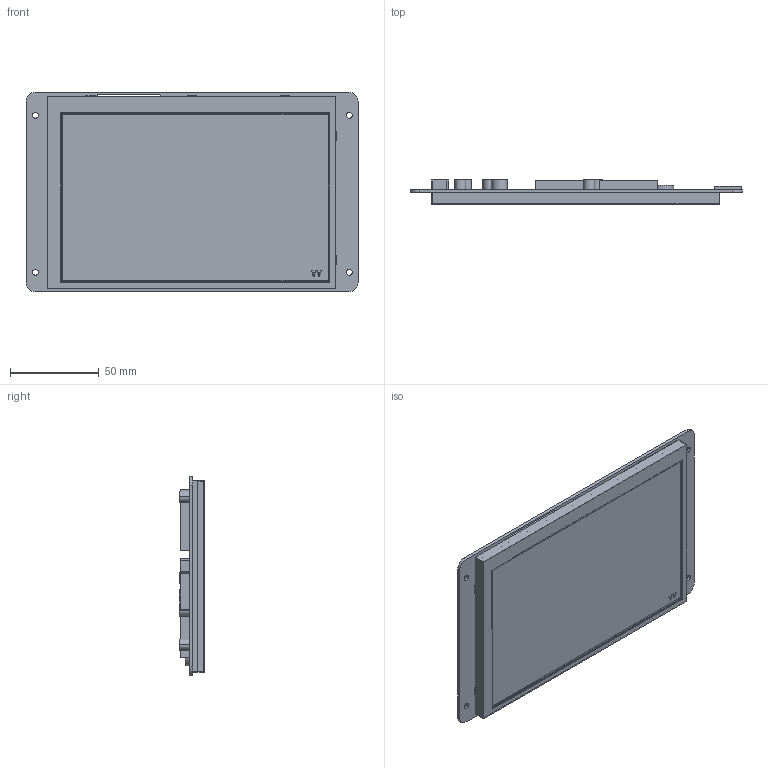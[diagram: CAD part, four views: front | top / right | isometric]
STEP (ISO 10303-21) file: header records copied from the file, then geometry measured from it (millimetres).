
FILE_DESCRIPTION((''),'2;1');
FILE_NAME('DMG12800K070-03WTC_ASM','2022-02-22T',('Administrator'),(''),'PRO/ENGINEER BY PARAMETRIC TECHNOLOGY CORPORATION, 2014320','PRO/ENGINEER BY PARAMETRIC TECHNOLOGY CORPORATION, 2014320','');
FILE_SCHEMA(('CONFIG_CONTROL_DESIGN','SHAPE_APPEARANCE_LAYERS_GROUPS'));
Length unit declared in the file: millimetre
Products named in the file (4): TK070024; TM070JDHG30-00; PCB; DMG12800K070-03WTC_ASM
Assembly tree (3 placements, depth 2):
  DMG12800K070-03WTC_ASM
    TK070024
    TM070JDHG30-00
    PCB
Bounding box: 186.94 x 13.9 x 112.14 mm (x, y, z)
Volume: 104394.4 mm3; surface area: 95398.6 mm2
Topology: 3 solids, 3 shells, 177 faces, 450 edges, 300 vertices
Faces by surface type: plane 145, cylinder 32
Entity records: 5541 total; most frequent: CARTESIAN_POINT 934, ORIENTED_EDGE 900, DIRECTION 882, EDGE_CURVE 450, VECTOR 386, LINE 386, VERTEX_POINT 300, AXIS2_PLACEMENT_3D 248
